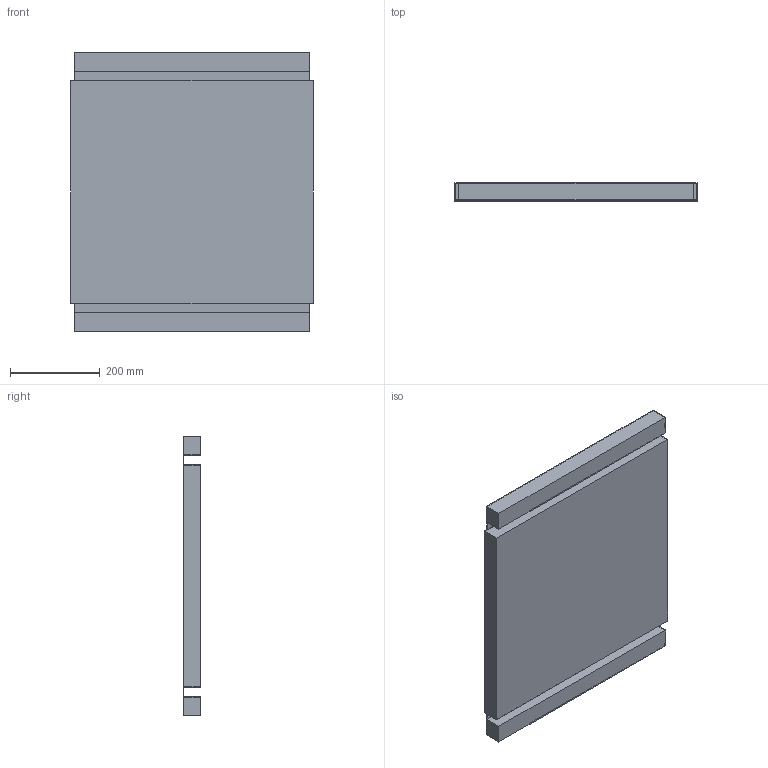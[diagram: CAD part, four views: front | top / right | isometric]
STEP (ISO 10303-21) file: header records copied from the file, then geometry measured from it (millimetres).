
FILE_DESCRIPTION((''),'2;1');
FILE_NAME('AIRFLOWBLANK_ORV3_XBRACE_STD','2022-01-31T23:29:46',('dmshapir'),('FACEBOOK, INC'),'CREO PARAMETRIC BY PTC INC, 2020454','CREO PARAMETRIC BY PTC INC, 2020454','');
FILE_SCHEMA(('AUTOMOTIVE_DESIGN { 1 0 10303 214 1 1 1 1 }'));
Length unit declared in the file: millimetre
Products named in the file (1): AIRFLOWBLANK_ORV3_XBRACE_STD
Bounding box: 540.84 x 39.57 x 625.05 mm (x, y, z)
Volume: 1285002.1 mm3; surface area: 1613217.2 mm2
Topology: 1 solids, 4 shells, 40 faces, 597 edges, 565 vertices
Faces by surface type: plane 40
Entity records: 6387 total; most frequent: CARTESIAN_POINT 1092, PRESENTATION_STYLE_ASSIGNMENT 602, STYLED_ITEM 602, CURVE_STYLE 601, DIRECTION 581, COMPOSITE_CURVE_SEGMENT 501, VECTOR 474, LINE 474
